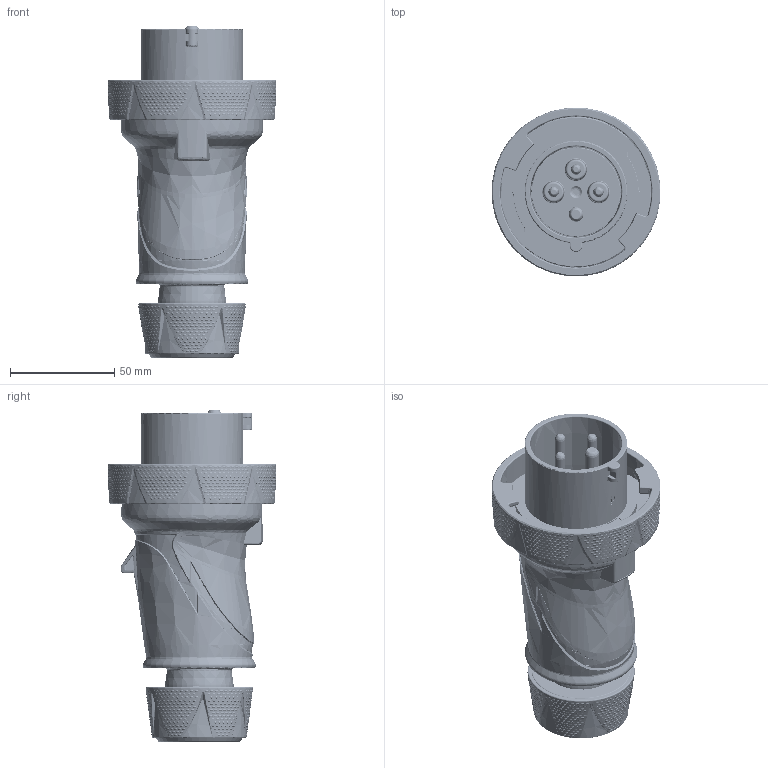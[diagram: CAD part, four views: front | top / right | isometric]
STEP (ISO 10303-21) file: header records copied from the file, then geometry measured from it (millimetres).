
FILE_DESCRIPTION((''),'2;1');
FILE_NAME('13622_SW0004','2024-02-27T10:17:26',('rettler001'),('MENNEKES'),'CREO PARAMETRIC BY PTC INC, 2019080','CREO PARAMETRIC BY PTC INC, 2019080','');
FILE_SCHEMA(('AUTOMOTIVE_DESIGN { 1 0 10303 214 1 1 1 1 }'));
Products named in the file (1): 13622_SW0004
Bounding box: 80.96 x 80.96 x 159.2 mm (x, y, z)
Volume: 308671.8 mm3; surface area: 53462.8 mm2
Topology: 1 solids, 1 shells, 2809 faces, 6109 edges, 4827 vertices
Faces by surface type: torus 1624, bspline 820, cylinder 136, plane 129, cone 61, sphere 20, extrusion 19
Entity records: 170585 total; most frequent: CARTESIAN_POINT 97403, ORIENTED_EDGE 12218, DIRECTION 6473, EDGE_CURVE 6109, VERTEX_POINT 4827, B_SPLINE_CURVE_WITH_KNOTS 4634, EDGE_LOOP 4338, AXIS2_PLACEMENT_3D 2990
